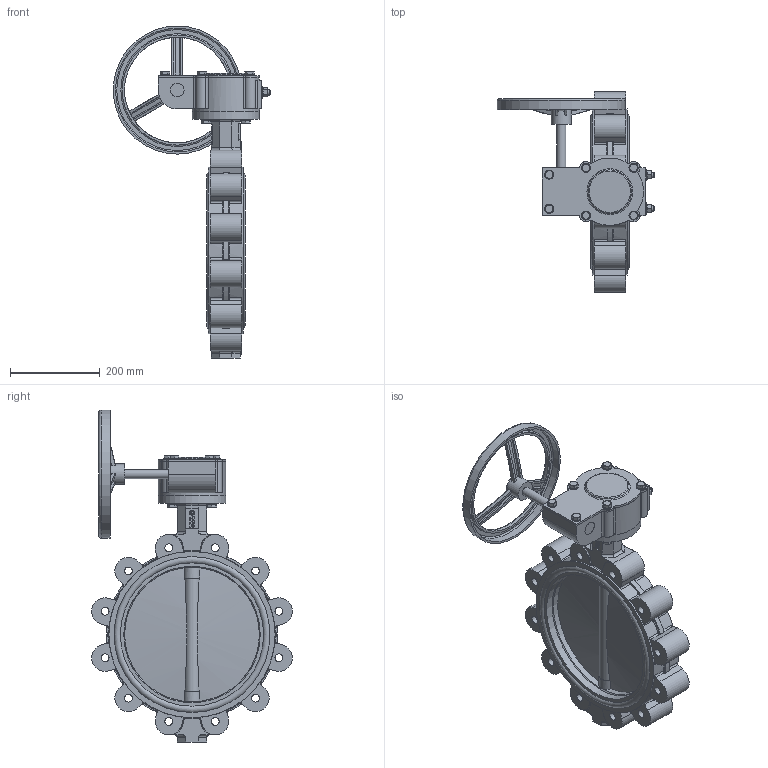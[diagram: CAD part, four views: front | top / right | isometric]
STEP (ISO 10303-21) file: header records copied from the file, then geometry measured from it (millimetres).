
FILE_DESCRIPTION(('STEP AP242'), '1');
FILE_NAME('Ïîâîðîòíûé çàòâîð ïîä ýëåêòðîïðèâîä', '', ('UNSPECIFIED'), ('UNSPECIFIED'), 'C3D Converter', 'C3D Toolkit', '');
FILE_SCHEMA(('AP242_MANAGED_MODEL_BASED_3D_ENGINEERING_MIM_LF { 1 0 10303 442 1 1 4 }'));
Length unit declared in the file: millimetre
Products named in the file (16): П
Assembly tree (36 placements, depth 3):
  (unnamed)
    (unnamed)
    П  x2
    (unnamed)
    (unnamed)
    (unnamed)
    (unnamed)
      (unnamed)
      (unnamed)
      (unnamed)
      (unnamed)
      (unnamed)  x6
      (unnamed)  x6
      (unnamed)  x2
      (unnamed)  x2
      (unnamed)
    (unnamed)  x4
    (unnamed)  x4
Bounding box: 350.5 x 446.14 x 738.5 mm (x, y, z)
Volume: 9604652.3 mm3; surface area: 1340236.3 mm2
Topology: 35 solids, 35 shells, 1083 faces, 2636 edges, 1682 vertices
Faces by surface type: plane 444, cylinder 280, extrusion 157, torus 102, bspline 52, cone 44, sphere 4
Full cylindrical faces by diameter (mm): 6 x2, 10.647 x2, 11.421 x1, 12 x30, 13 x10, 14 x4, 17.294 x12, 20 x13, 27 x5, 29.7 x1, 30 x2, 37.05 x4, 38.184 x5, 45 x1, 150 x2, 235 x1, 245 x1, 275 x1, 285 x1, 300 x1, 303.75 x2, 318.75 x2, 332.708 x4, 346.667 x4, 370 x2
Entity records: 41159 total; most frequent: CARTESIAN_POINT 17060, ORIENTED_EDGE 4336, DIRECTION 3867, EDGE_CURVE 2168, VERTEX_POINT 1459, AXIS2_PLACEMENT_3D 1390, EDGE_LOOP 1135, VECTOR 1087
